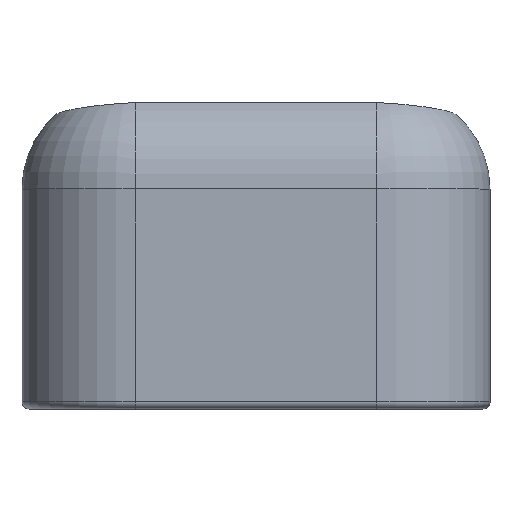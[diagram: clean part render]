
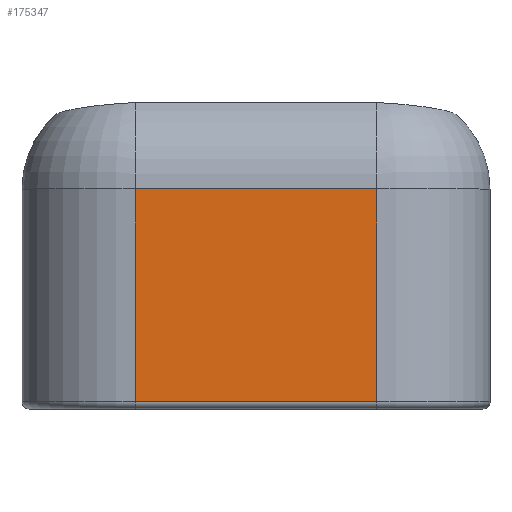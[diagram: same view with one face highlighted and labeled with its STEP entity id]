
A CAD part, top view. The second image highlights one B-rep face of the part: STEP entity #175347.
In plain terms, the highlighted planar face has unit normal (0, 0, 1).
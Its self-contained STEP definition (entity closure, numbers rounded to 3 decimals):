
#87292 = CYLINDRICAL_SURFACE('',#87293,32.);
#87293 = AXIS2_PLACEMENT_3D('',#87294,#87295,#87296);
#87294 = CARTESIAN_POINT('',(-34.,-46.,233.));
#87295 = DIRECTION('',(0.,-1.,-0.));
#87296 = DIRECTION('',(1.,0.,0.));
#87388 = VERTEX_POINT('',#87389);
#87389 = CARTESIAN_POINT('',(-34.,16.,265.));
#87405 = CYLINDRICAL_SURFACE('',#87406,28.);
#87406 = AXIS2_PLACEMENT_3D('',#87407,#87408,#87409);
#87407 = CARTESIAN_POINT('',(34.,16.,237.));
#87408 = DIRECTION('',(-1.,-0.,-0.));
#87409 = DIRECTION('',(-0.,0.,1.));
#88720 = CYLINDRICAL_SURFACE('',#88721,32.);
#88721 = AXIS2_PLACEMENT_3D('',#88722,#88723,#88724);
#88722 = CARTESIAN_POINT('',(34.,-46.,233.));
#88723 = DIRECTION('',(0.,-1.,-0.));
#88724 = DIRECTION('',(1.,0.,0.));
#89569 = CYLINDRICAL_SURFACE('',#89570,2.);
#89570 = AXIS2_PLACEMENT_3D('',#89571,#89572,#89573);
#89571 = CARTESIAN_POINT('',(34.,-44.,263.));
#89572 = DIRECTION('',(-1.,-0.,-0.));
#89573 = DIRECTION('',(-0.,0.,1.));
#90004 = VERTEX_POINT('',#90005);
#90005 = CARTESIAN_POINT('',(34.,16.,265.));
#92164 = VERTEX_POINT('',#92165);
#92165 = CARTESIAN_POINT('',(-34.,-44.,265.));
#92189 = EDGE_CURVE('',#92164,#87388,#92190,.T.);
#92190 = SURFACE_CURVE('',#92191,(#92195,#92202),.PCURVE_S1.);
#92191 = LINE('',#92192,#92193);
#92192 = CARTESIAN_POINT('',(-34.,-46.,265.));
#92193 = VECTOR('',#92194,1.);
#92194 = DIRECTION('',(-0.,1.,0.));
#92195 = PCURVE('',#87292,#92196);
#92196 = DEFINITIONAL_REPRESENTATION('',(#92197),#92201);
#92197 = LINE('',#92198,#92199);
#92198 = CARTESIAN_POINT('',(-4.712,0.));
#92199 = VECTOR('',#92200,1.);
#92200 = DIRECTION('',(-0.,-1.));
#92201 = ( GEOMETRIC_REPRESENTATION_CONTEXT(2) 
PARAMETRIC_REPRESENTATION_CONTEXT() REPRESENTATION_CONTEXT('2D SPACE',''
  ) );
#92202 = PCURVE('',#92203,#92208);
#92203 = PLANE('',#92204);
#92204 = AXIS2_PLACEMENT_3D('',#92205,#92206,#92207);
#92205 = CARTESIAN_POINT('',(-34.,-46.,265.));
#92206 = DIRECTION('',(0.,0.,-1.));
#92207 = DIRECTION('',(1.,0.,0.));
#92208 = DEFINITIONAL_REPRESENTATION('',(#92209),#92213);
#92209 = LINE('',#92210,#92211);
#92210 = CARTESIAN_POINT('',(0.,0.));
#92211 = VECTOR('',#92212,1.);
#92212 = DIRECTION('',(0.,-1.));
#92213 = ( GEOMETRIC_REPRESENTATION_CONTEXT(2) 
PARAMETRIC_REPRESENTATION_CONTEXT() REPRESENTATION_CONTEXT('2D SPACE',''
  ) );
#92266 = EDGE_CURVE('',#90004,#87388,#92267,.T.);
#92267 = SURFACE_CURVE('',#92268,(#92272,#92279),.PCURVE_S1.);
#92268 = LINE('',#92269,#92270);
#92269 = CARTESIAN_POINT('',(34.,16.,265.));
#92270 = VECTOR('',#92271,1.);
#92271 = DIRECTION('',(-1.,-0.,-0.));
#92272 = PCURVE('',#87405,#92273);
#92273 = DEFINITIONAL_REPRESENTATION('',(#92274),#92278);
#92274 = LINE('',#92275,#92276);
#92275 = CARTESIAN_POINT('',(0.,0.));
#92276 = VECTOR('',#92277,1.);
#92277 = DIRECTION('',(0.,1.));
#92278 = ( GEOMETRIC_REPRESENTATION_CONTEXT(2) 
PARAMETRIC_REPRESENTATION_CONTEXT() REPRESENTATION_CONTEXT('2D SPACE',''
  ) );
#92279 = PCURVE('',#92203,#92280);
#92280 = DEFINITIONAL_REPRESENTATION('',(#92281),#92285);
#92281 = LINE('',#92282,#92283);
#92282 = CARTESIAN_POINT('',(68.,-62.));
#92283 = VECTOR('',#92284,1.);
#92284 = DIRECTION('',(-1.,0.));
#92285 = ( GEOMETRIC_REPRESENTATION_CONTEXT(2) 
PARAMETRIC_REPRESENTATION_CONTEXT() REPRESENTATION_CONTEXT('2D SPACE',''
  ) );
#119360 = VERTEX_POINT('',#119361);
#119361 = CARTESIAN_POINT('',(34.,-44.,265.));
#119383 = EDGE_CURVE('',#119360,#90004,#119384,.T.);
#119384 = SURFACE_CURVE('',#119385,(#119389,#119396),.PCURVE_S1.);
#119385 = LINE('',#119386,#119387);
#119386 = CARTESIAN_POINT('',(34.,-46.,265.));
#119387 = VECTOR('',#119388,1.);
#119388 = DIRECTION('',(-0.,1.,0.));
#119389 = PCURVE('',#88720,#119390);
#119390 = DEFINITIONAL_REPRESENTATION('',(#119391),#119395);
#119391 = LINE('',#119392,#119393);
#119392 = CARTESIAN_POINT('',(-4.712,0.));
#119393 = VECTOR('',#119394,1.);
#119394 = DIRECTION('',(-0.,-1.));
#119395 = ( GEOMETRIC_REPRESENTATION_CONTEXT(2) 
PARAMETRIC_REPRESENTATION_CONTEXT() REPRESENTATION_CONTEXT('2D SPACE',''
  ) );
#119396 = PCURVE('',#92203,#119397);
#119397 = DEFINITIONAL_REPRESENTATION('',(#119398),#119402);
#119398 = LINE('',#119399,#119400);
#119399 = CARTESIAN_POINT('',(68.,0.));
#119400 = VECTOR('',#119401,1.);
#119401 = DIRECTION('',(0.,-1.));
#119402 = ( GEOMETRIC_REPRESENTATION_CONTEXT(2) 
PARAMETRIC_REPRESENTATION_CONTEXT() REPRESENTATION_CONTEXT('2D SPACE',''
  ) );
#121342 = EDGE_CURVE('',#119360,#92164,#121343,.T.);
#121343 = SURFACE_CURVE('',#121344,(#121348,#121355),.PCURVE_S1.);
#121344 = LINE('',#121345,#121346);
#121345 = CARTESIAN_POINT('',(34.,-44.,265.));
#121346 = VECTOR('',#121347,1.);
#121347 = DIRECTION('',(-1.,-0.,-0.));
#121348 = PCURVE('',#89569,#121349);
#121349 = DEFINITIONAL_REPRESENTATION('',(#121350),#121354);
#121350 = LINE('',#121351,#121352);
#121351 = CARTESIAN_POINT('',(-0.,0.));
#121352 = VECTOR('',#121353,1.);
#121353 = DIRECTION('',(-0.,1.));
#121354 = ( GEOMETRIC_REPRESENTATION_CONTEXT(2) 
PARAMETRIC_REPRESENTATION_CONTEXT() REPRESENTATION_CONTEXT('2D SPACE',''
  ) );
#121355 = PCURVE('',#92203,#121356);
#121356 = DEFINITIONAL_REPRESENTATION('',(#121357),#121361);
#121357 = LINE('',#121358,#121359);
#121358 = CARTESIAN_POINT('',(68.,-2.));
#121359 = VECTOR('',#121360,1.);
#121360 = DIRECTION('',(-1.,0.));
#121361 = ( GEOMETRIC_REPRESENTATION_CONTEXT(2) 
PARAMETRIC_REPRESENTATION_CONTEXT() REPRESENTATION_CONTEXT('2D SPACE',''
  ) );
#175347 = ADVANCED_FACE('',(#175348),#92203,.F.);
#175348 = FACE_BOUND('',#175349,.F.);
#175349 = EDGE_LOOP('',(#175350,#175351,#175352,#175353));
#175350 = ORIENTED_EDGE('',*,*,#92189,.T.);
#175351 = ORIENTED_EDGE('',*,*,#92266,.F.);
#175352 = ORIENTED_EDGE('',*,*,#119383,.F.);
#175353 = ORIENTED_EDGE('',*,*,#121342,.T.);
